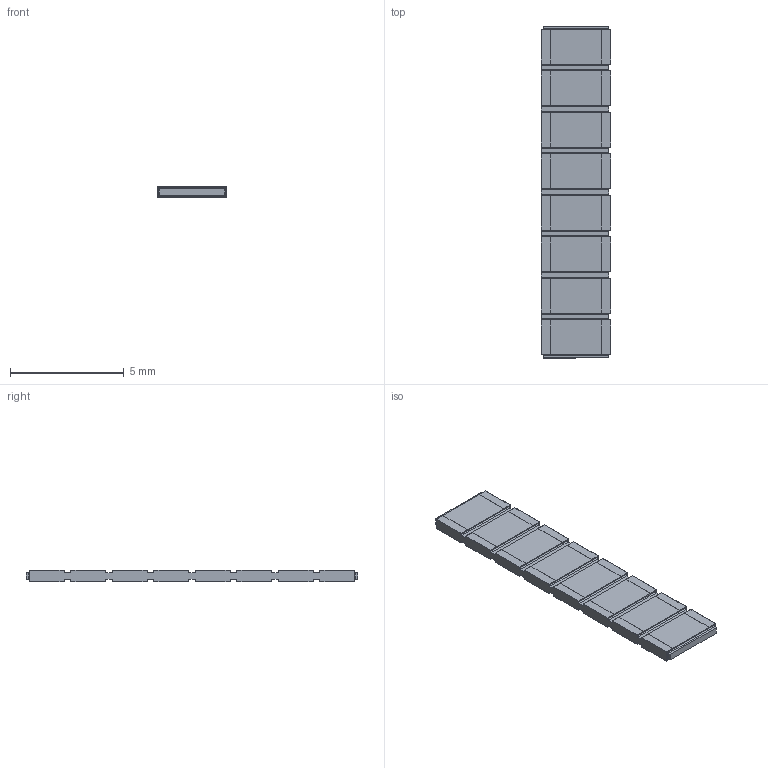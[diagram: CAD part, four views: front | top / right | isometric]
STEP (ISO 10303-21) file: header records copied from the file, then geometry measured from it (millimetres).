
FILE_DESCRIPTION(/* description */ (''),/* implementation_level */ '2;1');
FILE_NAME(/* name */ 'S:\DOCUMENT\AUTOCAD\3D_Modèles\10_3D-pour-VISHAY-COM\PRA\PRA182\PRA182-C2_à_C8\10_IGES\PRA182C8_B-or-N-or-G.stp',/* time_stamp */ '2017-12-19T09:08:44+01:00',/* author */ ('dparmentier'),/* organization */ ('unknown'),/* preprocessor_version */ 'ST-DEVELOPER v17',/* originating_system */ 'Autodesk Inventor 2018',/* authorisation */ '');
FILE_SCHEMA (('AUTOMOTIVE_DESIGN { 1 0 10303 214 3 1 1 }'));
Length unit declared in the file: millimetre
Products named in the file (1): PRA182C8_B-or-N-or-G
Bounding box: 3.06 x 14.6 x 0.5 mm (x, y, z)
Volume: 20.6 mm3; surface area: 176 mm2
Topology: 10 solids, 10 shells, 324 faces, 870 edges, 568 vertices
Faces by surface type: plane 246, cylinder 78
Entity records: 10030 total; most frequent: CARTESIAN_POINT 1763, ORIENTED_EDGE 1740, DIRECTION 1640, EDGE_CURVE 870, LINE 750, VECTOR 750, VERTEX_POINT 568, AXIS2_PLACEMENT_3D 445
